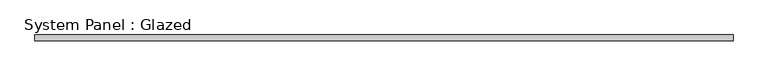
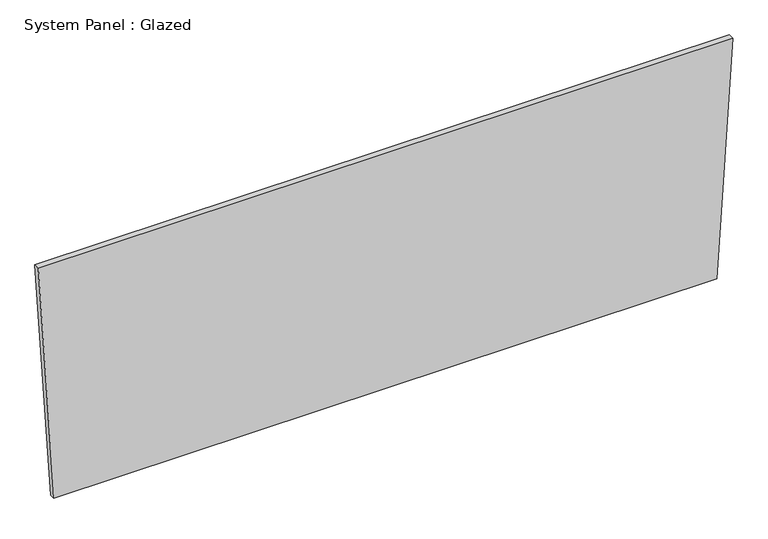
"""IFC4 building model written with IfcOpenShell, lengths in millimetres: plate geometry, System Panel : Glazed."""

from ifc_helpers import new_model, si_unit, frame, origin, place, context, project, spatial, polyline, outline, extrude, source, transform, mapped, element, save


def system_panel_glazed_7188ca77(model_context):
    return source(origin(), model_context, "Body", "SweptSolid", [
        extrude(outline(polyline([(0.0, -1420.1781615), (0.0, 1420.1781615), (1064.6933099, 1487.1885776), (1064.6933099, -1487.1885776), (0.0, -1420.1781615)])), frame((0.0, -44.45, 0.0), z_axis=(0.0, 1.0, 0.0), x_axis=(0.0, 0.0, 1.0)), (0.0, 0.0, 1.0), 25.4),
    ])


if __name__ == "__main__":
    model = new_model("IFC4")
    model_context = context("Model", 3, world=origin())
    ifc_project = project(units=[si_unit("LENGTHUNIT", "METRE", prefix="MILLI")], contexts=[model_context])
    site = spatial("IfcSite", under=ifc_project)
    building = spatial("IfcBuilding", under=site)
    placement = place(None, origin())
    system_panel_glazed_shape = system_panel_glazed_7188ca77(model_context)
    element("IfcPlate", 1, ObjectType="System Panel : Glazed", at=placement, inside=building, context=model_context, shape_type="MappedRepresentation", body=[
        mapped(system_panel_glazed_shape, transform((0.0, 0.0, 0.0), x_axis=(1.0, 0.0, 0.0), y_axis=(0.0, 1.0, 0.0), z_axis=(0.0, 0.0, 1.0))),
    ])
    save(model, "model.ifc")
